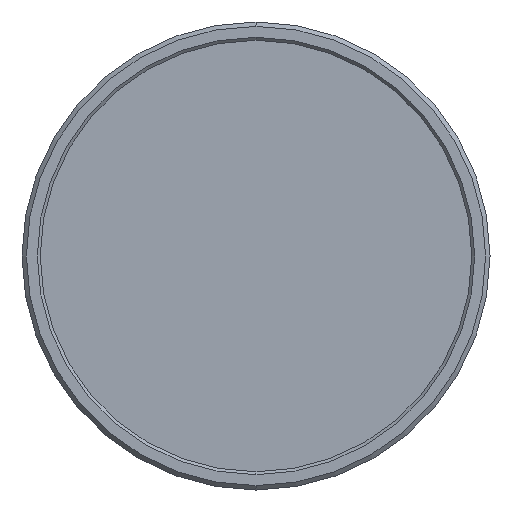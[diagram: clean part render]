
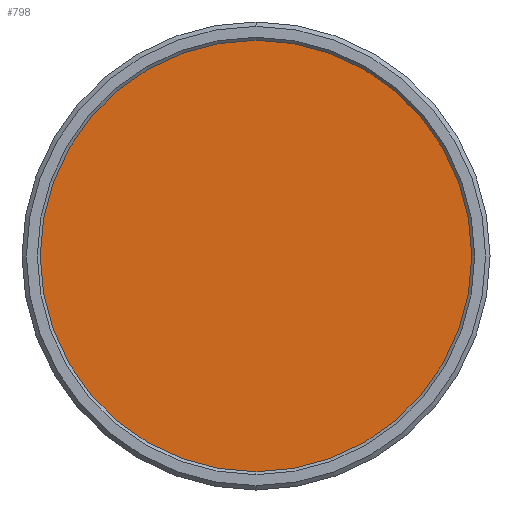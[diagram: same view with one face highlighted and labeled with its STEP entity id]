
A CAD part, left-side view. The second image highlights one B-rep face of the part: STEP entity #798.
In plain terms, the highlighted planar face has unit normal (-1, 0, 0).
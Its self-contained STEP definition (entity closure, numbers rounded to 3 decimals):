
#5 = AXIS2_PLACEMENT_3D ( 'NONE', #1255, #1119, #859 ) ;
#134 = VERTEX_POINT ( 'NONE', #1685 ) ;
#175 = CARTESIAN_POINT ( 'NONE',  ( 3.028, 0., 0. ) ) ;
#208 = ORIENTED_EDGE ( 'NONE', *, *, #614, .F. ) ;
#351 = PLANE ( 'NONE',  #683 ) ;
#595 = DIRECTION ( 'NONE',  ( 0., -1., 0. ) ) ;
#614 = EDGE_CURVE ( 'NONE', #1541, #134, #1178, .T. ) ;
#655 = CARTESIAN_POINT ( 'NONE',  ( 3.028, 0., 14.75 ) ) ;
#683 = AXIS2_PLACEMENT_3D ( 'NONE', #1691, #741, #1671 ) ;
#729 = DIRECTION ( 'NONE',  ( 1., 0., 0. ) ) ;
#741 = DIRECTION ( 'NONE',  ( -1., 0., 0. ) ) ;
#798 = ADVANCED_FACE ( 'NONE', ( #1490 ), #351, .T. ) ;
#859 = DIRECTION ( 'NONE',  ( 0., -1., 0. ) ) ;
#1000 = CIRCLE ( 'NONE', #5, 14.75 ) ;
#1119 = DIRECTION ( 'NONE',  ( 1., 0., 0. ) ) ;
#1178 = CIRCLE ( 'NONE', #1555, 14.75 ) ;
#1209 = ORIENTED_EDGE ( 'NONE', *, *, #1304, .F. ) ;
#1255 = CARTESIAN_POINT ( 'NONE',  ( 3.028, 0., 0. ) ) ;
#1304 = EDGE_CURVE ( 'NONE', #134, #1541, #1000, .T. ) ;
#1490 = FACE_OUTER_BOUND ( 'NONE', #1740, .T. ) ;
#1541 = VERTEX_POINT ( 'NONE', #655 ) ;
#1555 = AXIS2_PLACEMENT_3D ( 'NONE', #175, #729, #595 ) ;
#1671 = DIRECTION ( 'NONE',  ( 0., -1., 0. ) ) ;
#1685 = CARTESIAN_POINT ( 'NONE',  ( 3.028, 0., -14.75 ) ) ;
#1691 = CARTESIAN_POINT ( 'NONE',  ( 3.028, 0., 0. ) ) ;
#1740 = EDGE_LOOP ( 'NONE', ( #208, #1209 ) ) ;
